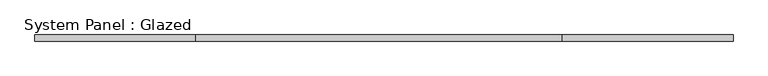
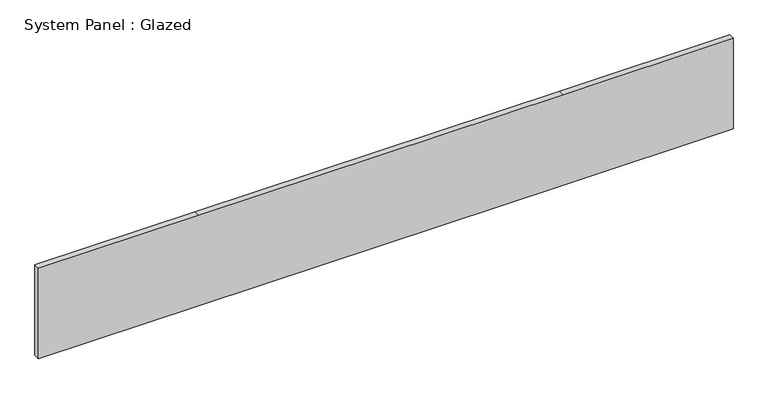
"""IFC4 building model written with IfcOpenShell, lengths in millimetres: plate geometry, System Panel : Glazed."""

from ifc_helpers import new_model, si_unit, frame, origin, place, context, project, spatial, polyline, outline, extrude, source, transform, mapped, element, save


def system_panel_glazed_55d0f924(model_context):
    return source(origin(), model_context, "Body", "SweptSolid", [
        extrude(outline(polyline([(0.0, -1452.5625), (0.0, -782.6375), (0.0, 741.3625), (0.0, 1452.5625), (400.05, 1452.5625), (400.05, 741.3625), (400.05, -782.6375), (400.05, -1452.5625), (0.0, -1452.5625)])), frame((0.0, 19.05, 0.0), z_axis=(0.0, 1.0, 0.0), x_axis=(0.0, 0.0, 1.0)), (0.0, 0.0, 1.0), 25.4),
    ])


if __name__ == "__main__":
    model = new_model("IFC4")
    model_context = context("Model", 3, world=origin())
    ifc_project = project(units=[si_unit("LENGTHUNIT", "METRE", prefix="MILLI")], contexts=[model_context])
    site = spatial("IfcSite", under=ifc_project)
    building = spatial("IfcBuilding", under=site)
    placement = place(None, origin())
    system_panel_glazed_shape = system_panel_glazed_55d0f924(model_context)
    element("IfcPlate", 1, ObjectType="System Panel : Glazed", at=placement, inside=building, context=model_context, shape_type="MappedRepresentation", body=[
        mapped(system_panel_glazed_shape, transform((0.0, 0.0, 0.0), x_axis=(1.0, 0.0, 0.0), y_axis=(0.0, 1.0, 0.0), z_axis=(0.0, 0.0, 1.0))),
    ])
    save(model, "model.ifc")
